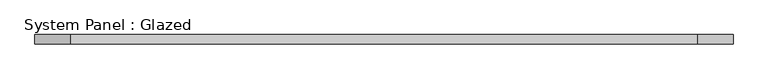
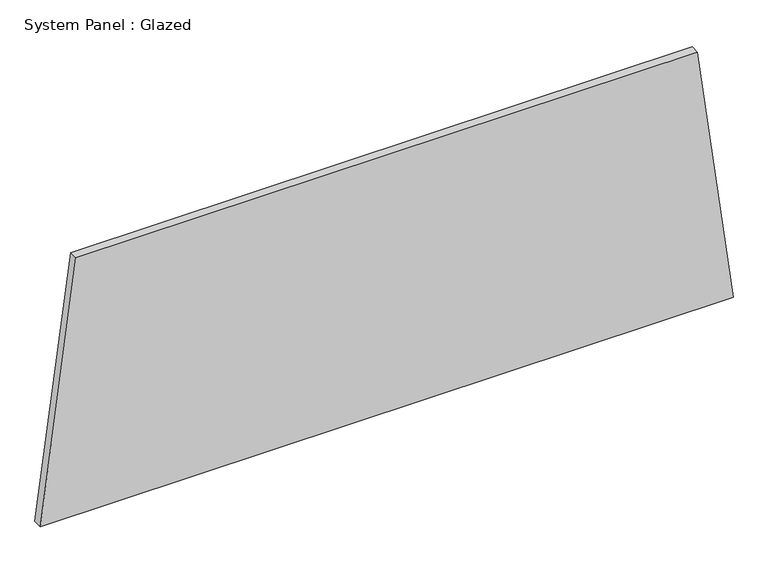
"""IFC4 building model written with IfcOpenShell, lengths in millimetres: plate geometry, System Panel : Glazed."""

from ifc_helpers import new_model, si_unit, frame, origin, place, context, project, spatial, polyline, outline, extrude, source, transform, mapped, element, save


def system_panel_glazed_0d06b648(model_context):
    return source(origin(), model_context, "Body", "SweptSolid", [
        extrude(outline(polyline([(0.0, -930.9366213), (0.0, 930.9366213), (730.1376435, 835.2362053), (730.1376435, -835.2362053), (0.0, -930.9366213)])), frame((0.0, -44.45, 0.0), z_axis=(0.0, 1.0, 0.0), x_axis=(0.0, 0.0, 1.0)), (0.0, 0.0, 1.0), 25.4),
    ])


if __name__ == "__main__":
    model = new_model("IFC4")
    model_context = context("Model", 3, world=origin())
    ifc_project = project(units=[si_unit("LENGTHUNIT", "METRE", prefix="MILLI")], contexts=[model_context])
    site = spatial("IfcSite", under=ifc_project)
    building = spatial("IfcBuilding", under=site)
    placement = place(None, origin())
    system_panel_glazed_shape = system_panel_glazed_0d06b648(model_context)
    element("IfcPlate", 1, ObjectType="System Panel : Glazed", at=placement, inside=building, context=model_context, shape_type="MappedRepresentation", body=[
        mapped(system_panel_glazed_shape, transform((0.0, 0.0, 0.0), x_axis=(1.0, 0.0, 0.0), y_axis=(0.0, 1.0, 0.0), z_axis=(0.0, 0.0, 1.0))),
    ])
    save(model, "model.ifc")
